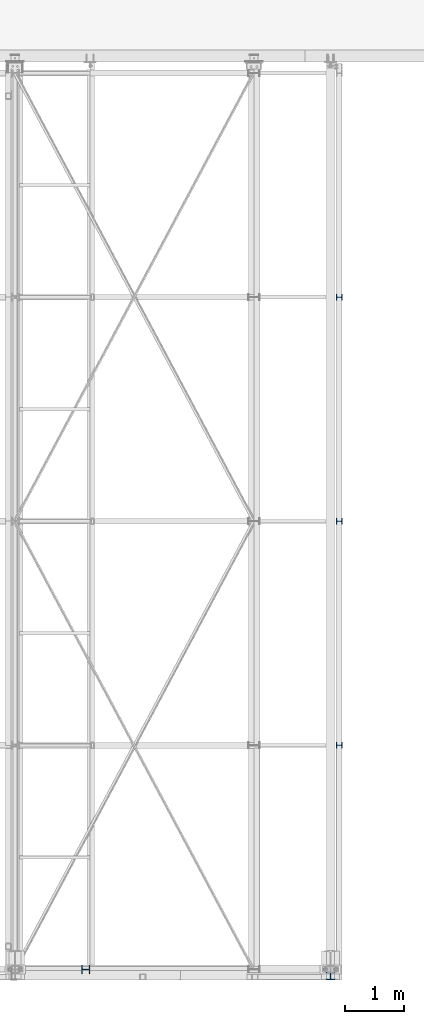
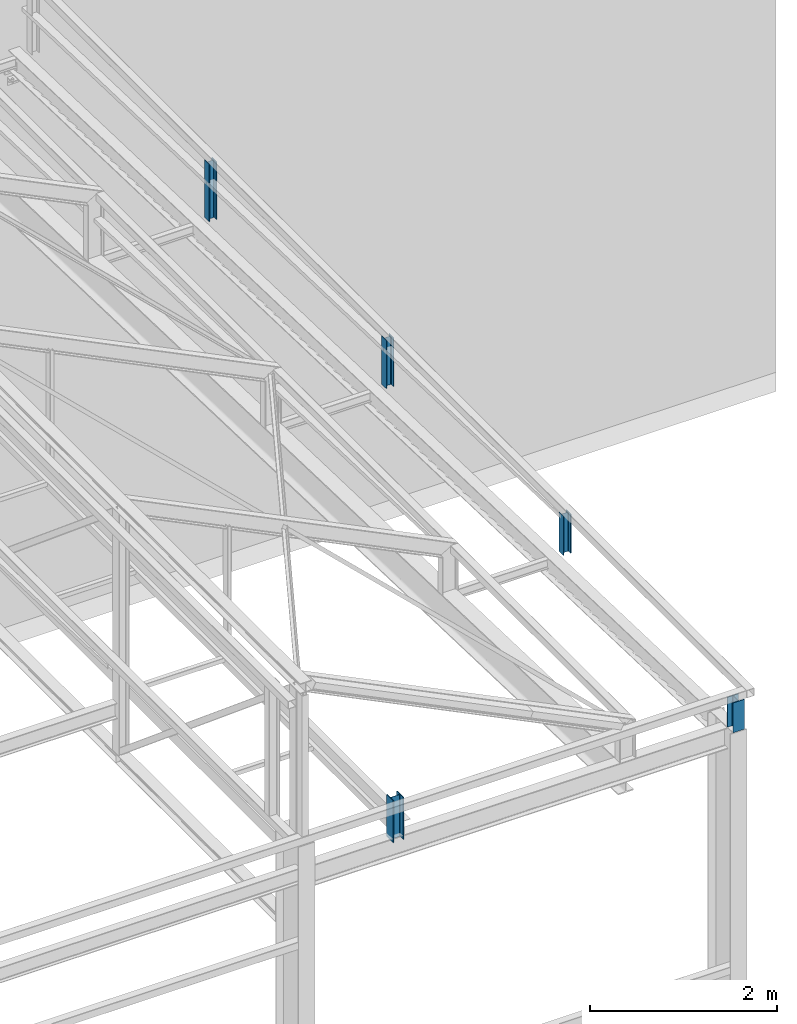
# One storey, part 22 of 123: 5 columns, 5 elements without a shape of their own.
"""IFC2X3 building model written with IfcOpenShell, lengths in millimetres."""

from ifc_helpers import new_model, si_unit, frame, origin_with_axes, origin_2d_with_axis, place, context, subcontext, project, spatial, i_section, extrude, clip, halfspace, material, type_object, element, aggregate, save


model = new_model("IFC2X3")

# Units and contexts
model_context = context("Model", 3, precision=1e-05, world=origin_with_axes())
body_context = subcontext(model_context, "Body", "Model", "MODEL_VIEW")
ifc_project = project(units=[si_unit("LENGTHUNIT", "METRE", prefix="MILLI"), si_unit("AREAUNIT", "SQUARE_METRE"), si_unit("VOLUMEUNIT", "CUBIC_METRE"), si_unit("MASSUNIT", "GRAM", prefix="KILO"), si_unit("TIMEUNIT", "SECOND"), si_unit("PLANEANGLEUNIT", "RADIAN"), si_unit("SOLIDANGLEUNIT", "STERADIAN"), si_unit("THERMODYNAMICTEMPERATUREUNIT", "DEGREE_CELSIUS"), si_unit("LUMINOUSINTENSITYUNIT", "LUMEN")], contexts=[model_context])

# Site, building, storey
site_placement = place(None, origin_with_axes())
site = spatial("IfcSite", under=ifc_project, at=site_placement, Name="Undefined", CompositionType="ELEMENT")
building_placement = place(site_placement, origin_with_axes())
building = spatial("IfcBuilding", under=site, at=building_placement, Name="Undefined", CompositionType="ELEMENT")
storey_placement = place(building_placement, origin_with_axes())
storey = spatial("IfcBuildingStorey", under=building, at=storey_placement, Name="Undefined", CompositionType="ELEMENT", Elevation=0.0)

# Assembly, column
assembly_1_placement = place(storey_placement, origin_with_axes())
assembly_1 = element("IfcElementAssembly", 1, at=assembly_1_placement, inside=storey, Name="Steel Assembly", AssemblyPlace="NOTDEFINED", PredefinedType="RIGID_FRAME")
ifc_material = material(Name="STEEL/S275-E28")
column_type_1 = type_object("IfcColumnType", Name="HEA100", PredefinedType="NOTDEFINED")
column_1_placement = place(assembly_1_placement, frame((39777.0, 3800.0, 7930.56369681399), z_axis=(0.0, 0.0, 1.0), x_axis=(1.0, 0.0, 0.0)))
column_1 = element("IfcColumn", 2, at=column_1_placement, type_object=column_type_1, material=ifc_material, Name="BAIONNETTE", ObjectType="HEA100", context=body_context, shape_type="SweptSolid", body=[
    extrude(i_section(OverallWidth=100.0, OverallDepth=96.0, WebThickness=5.0, FlangeThickness=8.0, FilletRadius=12.0, at=origin_2d_with_axis()), frame((0.0, 0.0, 514.436303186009), z_axis=(0.0, 0.0, -1.0), x_axis=(0.0, 1.0, 0.0)), (0.0, 0.0, 1.0), 514.4),
])
aggregate(assembly_1, [column_1])

assembly_2_placement = place(storey_placement, origin_with_axes())
assembly_2 = element("IfcElementAssembly", 3, at=assembly_2_placement, inside=storey, Name="Steel Assembly", AssemblyPlace="NOTDEFINED", PredefinedType="RIGID_FRAME")
column_2_placement = place(assembly_2_placement, frame((39777.0, 7600.0, 7811.16037857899), z_axis=(0.0, 0.0, 1.0), x_axis=(1.0, 0.0, 0.0)))
column_2 = element("IfcColumn", 4, at=column_2_placement, type_object=column_type_1, material=ifc_material, Name="BAIONNETTE", ObjectType="HEA100", context=body_context, shape_type="SweptSolid", body=[
    extrude(i_section(OverallWidth=100.0, OverallDepth=96.0, WebThickness=5.0, FlangeThickness=8.0, FilletRadius=12.0, at=origin_2d_with_axis()), frame((0.0, 0.0, 633.839621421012), z_axis=(0.0, 0.0, -1.0), x_axis=(0.0, 1.0, 0.0)), (0.0, 0.0, 1.0), 633.8),
])
aggregate(assembly_2, [column_2])

assembly_3_placement = place(storey_placement, origin_with_axes())
assembly_3 = element("IfcElementAssembly", 5, at=assembly_3_placement, inside=storey, Name="Steel Assembly", AssemblyPlace="NOTDEFINED", PredefinedType="RIGID_FRAME")
column_3_placement = place(assembly_3_placement, frame((39777.0, 11400.0, 7691.6925298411), z_axis=(0.0, 0.0, 1.0), x_axis=(1.0, 0.0, 0.0)))
column_3 = element("IfcColumn", 6, at=column_3_placement, type_object=column_type_1, material=ifc_material, Name="BAIONNETTE", ObjectType="HEA100", context=body_context, shape_type="SweptSolid", body=[
    extrude(i_section(OverallWidth=100.0, OverallDepth=96.0, WebThickness=5.0, FlangeThickness=8.0, FilletRadius=12.0, at=origin_2d_with_axis()), frame((0.0, 0.0, 753.3074701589), z_axis=(0.0, 0.0, -1.0), x_axis=(0.0, 1.0, 0.0)), (0.0, 0.0, 1.0), 753.3),
])
aggregate(assembly_3, [column_3])

assembly_4_placement = place(storey_placement, origin_with_axes())
assembly_4 = element("IfcElementAssembly", 7, at=assembly_4_placement, inside=storey, Name="Steel Assembly", AssemblyPlace="NOTDEFINED", PredefinedType="RIGID_FRAME")
column_type_2 = type_object("IfcColumnType", Name="HEA140", PredefinedType="NOTDEFINED")
column_4_placement = place(assembly_4_placement, frame((35479.9917140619, 0.000143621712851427, 8000.0), z_axis=(0.0, 0.0, 1.0), x_axis=(-1.0, 0.0, 0.0)))
column_4 = element("IfcColumn", 8, at=column_4_placement, type_object=column_type_2, material=ifc_material, Name="MONTANT", ObjectType="HEA140", context=body_context, shape_type="SweptSolid", body=[
    extrude(i_section(OverallWidth=140.0, OverallDepth=133.0, WebThickness=5.5, FlangeThickness=8.5, FilletRadius=12.0, at=origin_2d_with_axis()), frame((0.0, 0.0, 550.0), z_axis=(0.0, 0.0, -1.0), x_axis=(0.0, 1.0, 0.0)), (0.0, 0.0, 1.0), 550.0),
])
aggregate(assembly_4, [column_4])

assembly_5_placement = place(storey_placement, origin_with_axes())
assembly_5 = element("IfcElementAssembly", 9, at=assembly_5_placement, inside=storey, Name="Steel Assembly", AssemblyPlace="NOTDEFINED", PredefinedType="RIGID_FRAME")
column_5_placement = place(assembly_5_placement, frame((39630.0, -113.5, 8049.99544952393), z_axis=(0.0, 0.0, 1.0), x_axis=(0.0, 1.0, 0.0)))
column_5 = element("IfcColumn", 10, at=column_5_placement, type_object=column_type_2, material=ifc_material, Name="BAIONNETTE", ObjectType="HEA140", context=body_context, shape_type="Clipping", body=[
    clip(extrude(i_section(OverallWidth=140.0, OverallDepth=133.0, WebThickness=5.5, FlangeThickness=8.5, FilletRadius=12.0, at=origin_2d_with_axis()), frame((0.0, 0.0, 395.004550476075), z_axis=(0.0, 0.0, -1.0), x_axis=(0.0, 1.0, 0.0)), (0.0, 0.0, 1.0), 395.0), halfspace(frame((-66.5, -70.0, 5.66127835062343), z_axis=(-0.0314107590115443, 0.0, -0.999506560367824), x_axis=(0.999506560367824, 0.0, -0.0314107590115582)), False)),
])
aggregate(assembly_5, [column_5])

save(model, "model.ifc")
